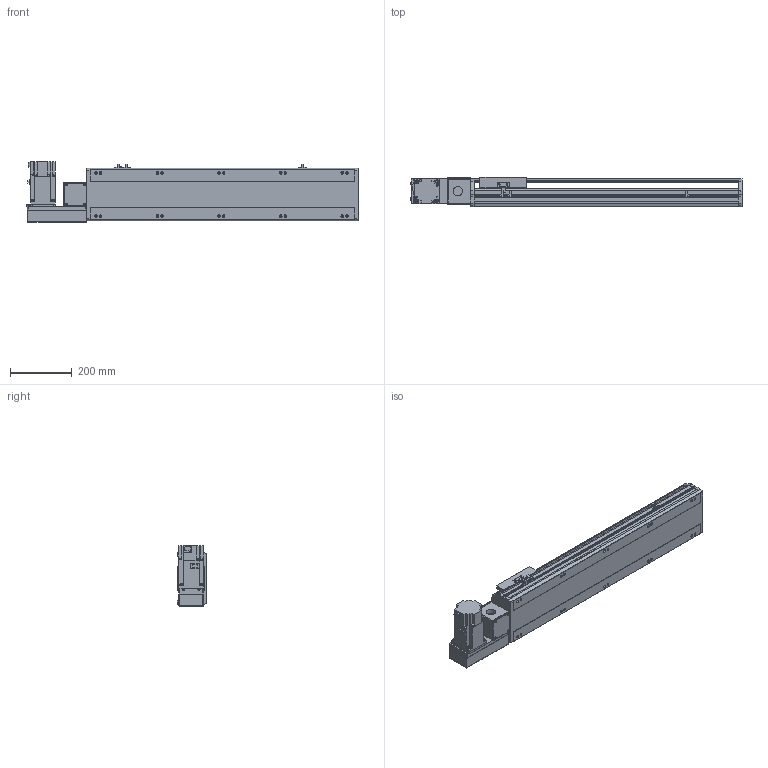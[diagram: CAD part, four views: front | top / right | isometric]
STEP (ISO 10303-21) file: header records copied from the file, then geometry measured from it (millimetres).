
FILE_DESCRIPTION( ( 'STEP AP214' ), '1' );
FILE_NAME( 'x:/temp/worker_3/temp/exporttempdir_5796_53_q4rCH/format_0/PBS170-P40-S600-L-T75-C1-N(0).stp', '2022-06-07T06:37:50', ( 'License CC BY-ND 4.0' ), ( 'CADENAS' ), ' ', 'PARTsolutions', ' ' );
FILE_SCHEMA( ( 'AUTOMOTIVE_DESIGN { 1 0 10303 214 1 1 1 1 }' ) );
Length unit declared in the file: millimetre
Products named in the file (7): PBS170-P40-S600-L-T75-C1-N(0); _PBS170-S600()_body; _PBS170T-L_motors; _T75-p1; _PBS170_sliser; _PBS170_plant; _PBS170_sensor
Assembly tree (8 placements, depth 2):
  PBS170-P40-S600-L-T75-C1-N(0)
    _PBS170-S600()_body
    _PBS170T-L_motors
    _T75-p1
    _PBS170_sliser
    _PBS170_plant
    _PBS170_sensor  x3
Bounding box: 1078 x 97 x 197.3 mm (x, y, z)
Volume: 8142545.9 mm3; surface area: 1095428.3 mm2
Topology: 8 solids, 8 shells, 1034 faces, 2755 edges, 1796 vertices
Faces by surface type: plane 669, cylinder 315, cone 40, sphere 8, torus 2
Full cylindrical faces by diameter (mm): 3.242 x4, 4 x2, 4.4 x4, 4.5 x6, 4.917 x4, 6 x9, 6.647 x18, 7 x2, 7.5 x4, 8 x8, 8.5 x10, 10 x4, 10.5 x10, 11 x2, 30 x2, 40 x1, 70 x1
Entity records: 37814 total; most frequent: CARTESIAN_POINT 5717, DIRECTION 5090, ORIENTED_EDGE 4848, EDGE_CURVE 2424, AXIS2_PLACEMENT_3D 1747, VERTEX_POINT 1658, LINE 1596, VECTOR 1596
